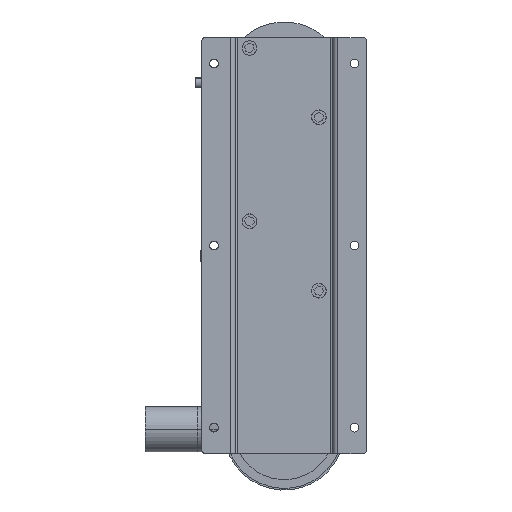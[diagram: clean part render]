
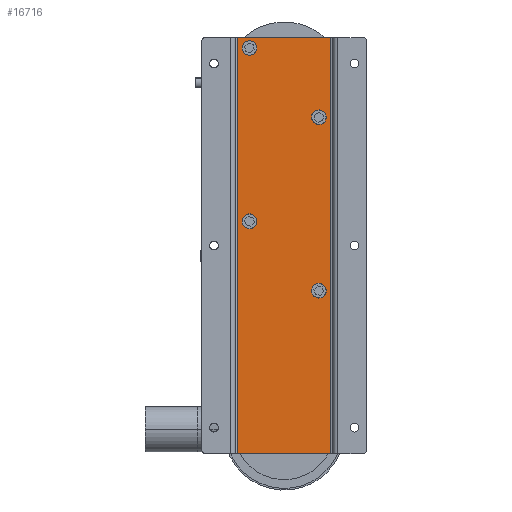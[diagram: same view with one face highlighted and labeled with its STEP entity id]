
A CAD part, left-side view. The second image highlights one B-rep face of the part: STEP entity #16716.
In plain terms, the highlighted planar face has unit normal (-1, 0, 0) as drawn and (0, 0, -1) by its records, which use the part's own axes.
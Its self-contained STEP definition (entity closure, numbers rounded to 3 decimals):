
#284 = DIRECTION ( 'NONE',  ( 0., 0., 1. ) ) ;
#1964 = DIRECTION ( 'NONE',  ( 1., 0., 0. ) ) ;
#3705 = CARTESIAN_POINT ( 'NONE',  ( -14., 20., -2. ) ) ;
#4168 = CARTESIAN_POINT ( 'NONE',  ( 29.25, -20., -2. ) ) ;
#4488 = ORIENTED_EDGE ( 'NONE', *, *, #53816, .T. ) ;
#5444 = ORIENTED_EDGE ( 'NONE', *, *, #41862, .F. ) ;
#5650 = DIRECTION ( 'NONE',  ( 1., 0., 0. ) ) ;
#6603 = CARTESIAN_POINT ( 'NONE',  ( 120., 27., -2. ) ) ;
#7766 = EDGE_CURVE ( 'NONE', #44637, #67734, #44096, .T. ) ;
#9466 = CARTESIAN_POINT ( 'NONE',  ( -77.25, -20., -2. ) ) ;
#9468 = DIRECTION ( 'NONE',  ( 0., 0., 1. ) ) ;
#9881 = ORIENTED_EDGE ( 'NONE', *, *, #7766, .T. ) ;
#10795 = EDGE_CURVE ( 'NONE', #48339, #83130, #59383, .T. ) ;
#11123 = CARTESIAN_POINT ( 'NONE',  ( 26., -20., -2. ) ) ;
#12160 = CARTESIAN_POINT ( 'NONE',  ( 26., -20., -2. ) ) ;
#12500 = LINE ( 'NONE', #18260, #30328 ) ;
#13712 = CARTESIAN_POINT ( 'NONE',  ( -17.25, 20., -2. ) ) ;
#14471 = DIRECTION ( 'NONE',  ( 1., 0., 0. ) ) ;
#16716 = ADVANCED_FACE ( 'NONE', ( #60404, #53781, #20168, #45826, #47564 ), #60847, .F. ) ;
#17041 = VERTEX_POINT ( 'NONE', #6603 ) ;
#17331 = CIRCLE ( 'NONE', #39944, 3.25 ) ;
#18260 = CARTESIAN_POINT ( 'NONE',  ( 120., 27., -2. ) ) ;
#19815 = VERTEX_POINT ( 'NONE', #42827 ) ;
#19989 = ORIENTED_EDGE ( 'NONE', *, *, #49729, .T. ) ;
#20168 = FACE_BOUND ( 'NONE', #81532, .T. ) ;
#20286 = AXIS2_PLACEMENT_3D ( 'NONE', #12160, #32480, #86437 ) ;
#20412 = VERTEX_POINT ( 'NONE', #25442 ) ;
#20504 = EDGE_CURVE ( 'NONE', #67734, #44637, #39809, .T. ) ;
#20604 = CARTESIAN_POINT ( 'NONE',  ( 120., -27., -2. ) ) ;
#23337 = CARTESIAN_POINT ( 'NONE',  ( -70.75, -20., -2. ) ) ;
#24513 = CIRCLE ( 'NONE', #20286, 3.25 ) ;
#25442 = CARTESIAN_POINT ( 'NONE',  ( 120., -27., -2. ) ) ;
#25821 = VERTEX_POINT ( 'NONE', #13712 ) ;
#27843 = CARTESIAN_POINT ( 'NONE',  ( -110.75, 20., -2. ) ) ;
#28300 = DIRECTION ( 'NONE',  ( 0., 0., 1. ) ) ;
#28723 = LINE ( 'NONE', #70731, #30884 ) ;
#30328 = VECTOR ( 'NONE', #46080, 1000. ) ;
#30884 = VECTOR ( 'NONE', #55691, 1000. ) ;
#31965 = CIRCLE ( 'NONE', #81379, 3.25 ) ;
#32480 = DIRECTION ( 'NONE',  ( 0., 0., 1. ) ) ;
#32683 = AXIS2_PLACEMENT_3D ( 'NONE', #11123, #72137, #71259 ) ;
#32736 = AXIS2_PLACEMENT_3D ( 'NONE', #47507, #47075, #48804 ) ;
#32995 = DIRECTION ( 'NONE',  ( 0., 0., 1. ) ) ;
#39725 = CARTESIAN_POINT ( 'NONE',  ( -14., 20., -2. ) ) ;
#39761 = CIRCLE ( 'NONE', #32683, 3.25 ) ;
#39809 = CIRCLE ( 'NONE', #32736, 3.25 ) ;
#39944 = AXIS2_PLACEMENT_3D ( 'NONE', #3705, #9468, #1964 ) ;
#41862 = EDGE_CURVE ( 'NONE', #20412, #17041, #81188, .T. ) ;
#42709 = AXIS2_PLACEMENT_3D ( 'NONE', #39725, #55147, #14471 ) ;
#42827 = CARTESIAN_POINT ( 'NONE',  ( -10.75, 20., -2. ) ) ;
#43431 = ORIENTED_EDGE ( 'NONE', *, *, #49235, .T. ) ;
#44096 = CIRCLE ( 'NONE', #48309, 3.25 ) ;
#44637 = VERTEX_POINT ( 'NONE', #23337 ) ;
#44811 = AXIS2_PLACEMENT_3D ( 'NONE', #68987, #28300, #54834 ) ;
#44830 = EDGE_LOOP ( 'NONE', ( #9881, #78584 ) ) ;
#45826 = FACE_BOUND ( 'NONE', #86244, .T. ) ;
#46080 = DIRECTION ( 'NONE',  ( -1., 0., 0. ) ) ;
#46962 = CARTESIAN_POINT ( 'NONE',  ( -120., -27., -2. ) ) ;
#47075 = DIRECTION ( 'NONE',  ( 0., 0., 1. ) ) ;
#47126 = CARTESIAN_POINT ( 'NONE',  ( 0., 0., -2. ) ) ;
#47507 = CARTESIAN_POINT ( 'NONE',  ( -74., -20., -2. ) ) ;
#47564 = FACE_OUTER_BOUND ( 'NONE', #69903, .T. ) ;
#48309 = AXIS2_PLACEMENT_3D ( 'NONE', #82815, #55839, #5650 ) ;
#48339 = VERTEX_POINT ( 'NONE', #53618 ) ;
#48581 = EDGE_LOOP ( 'NONE', ( #4488, #64448 ) ) ;
#48647 = EDGE_CURVE ( 'NONE', #63582, #60539, #39761, .T. ) ;
#48804 = DIRECTION ( 'NONE',  ( 1., 0., 0. ) ) ;
#49235 = EDGE_CURVE ( 'NONE', #19815, #25821, #76546, .T. ) ;
#49729 = EDGE_CURVE ( 'NONE', #25821, #19815, #17331, .T. ) ;
#51290 = CARTESIAN_POINT ( 'NONE',  ( -120., -27., -2. ) ) ;
#53338 = DIRECTION ( 'NONE',  ( 1., 0., 0. ) ) ;
#53448 = VECTOR ( 'NONE', #58356, 1000. ) ;
#53618 = CARTESIAN_POINT ( 'NONE',  ( -120., 27., -2. ) ) ;
#53781 = FACE_BOUND ( 'NONE', #44830, .T. ) ;
#53816 = EDGE_CURVE ( 'NONE', #70912, #78163, #31965, .T. ) ;
#54200 = DIRECTION ( 'NONE',  ( 1., 0., 0. ) ) ;
#54834 = DIRECTION ( 'NONE',  ( 1., 0., 0. ) ) ;
#55147 = DIRECTION ( 'NONE',  ( 0., 0., 1. ) ) ;
#55691 = DIRECTION ( 'NONE',  ( 1., 0., 0. ) ) ;
#55839 = DIRECTION ( 'NONE',  ( 0., 0., 1. ) ) ;
#58356 = DIRECTION ( 'NONE',  ( 0., 1., 0. ) ) ;
#58727 = CARTESIAN_POINT ( 'NONE',  ( 22.75, -20., -2. ) ) ;
#59383 = LINE ( 'NONE', #46962, #85414 ) ;
#60404 = FACE_BOUND ( 'NONE', #48581, .T. ) ;
#60539 = VERTEX_POINT ( 'NONE', #58727 ) ;
#60847 = PLANE ( 'NONE',  #70588 ) ;
#62785 = EDGE_CURVE ( 'NONE', #78163, #70912, #73031, .T. ) ;
#63582 = VERTEX_POINT ( 'NONE', #4168 ) ;
#64448 = ORIENTED_EDGE ( 'NONE', *, *, #62785, .T. ) ;
#66623 = CARTESIAN_POINT ( 'NONE',  ( -114., 20., -2. ) ) ;
#67734 = VERTEX_POINT ( 'NONE', #9466 ) ;
#67755 = ORIENTED_EDGE ( 'NONE', *, *, #10795, .F. ) ;
#68987 = CARTESIAN_POINT ( 'NONE',  ( -114., 20., -2. ) ) ;
#69903 = EDGE_LOOP ( 'NONE', ( #67755, #85961, #5444, #76106 ) ) ;
#70588 = AXIS2_PLACEMENT_3D ( 'NONE', #47126, #284, #54200 ) ;
#70731 = CARTESIAN_POINT ( 'NONE',  ( 120., -27., -2. ) ) ;
#70912 = VERTEX_POINT ( 'NONE', #27843 ) ;
#71259 = DIRECTION ( 'NONE',  ( 1., 0., 0. ) ) ;
#72137 = DIRECTION ( 'NONE',  ( 0., 0., 1. ) ) ;
#72251 = CARTESIAN_POINT ( 'NONE',  ( -117.25, 20., -2. ) ) ;
#73031 = CIRCLE ( 'NONE', #44811, 3.25 ) ;
#73049 = EDGE_CURVE ( 'NONE', #60539, #63582, #24513, .T. ) ;
#74641 = EDGE_CURVE ( 'NONE', #17041, #48339, #12500, .T. ) ;
#76106 = ORIENTED_EDGE ( 'NONE', *, *, #86104, .F. ) ;
#76546 = CIRCLE ( 'NONE', #42709, 3.25 ) ;
#78163 = VERTEX_POINT ( 'NONE', #72251 ) ;
#78584 = ORIENTED_EDGE ( 'NONE', *, *, #20504, .T. ) ;
#80145 = DIRECTION ( 'NONE',  ( 0., -1., 0. ) ) ;
#80764 = ORIENTED_EDGE ( 'NONE', *, *, #73049, .T. ) ;
#81188 = LINE ( 'NONE', #20604, #53448 ) ;
#81379 = AXIS2_PLACEMENT_3D ( 'NONE', #66623, #32995, #53338 ) ;
#81532 = EDGE_LOOP ( 'NONE', ( #43431, #19989 ) ) ;
#82815 = CARTESIAN_POINT ( 'NONE',  ( -74., -20., -2. ) ) ;
#83130 = VERTEX_POINT ( 'NONE', #51290 ) ;
#83980 = ORIENTED_EDGE ( 'NONE', *, *, #48647, .T. ) ;
#85414 = VECTOR ( 'NONE', #80145, 1000. ) ;
#85961 = ORIENTED_EDGE ( 'NONE', *, *, #74641, .F. ) ;
#86104 = EDGE_CURVE ( 'NONE', #83130, #20412, #28723, .T. ) ;
#86244 = EDGE_LOOP ( 'NONE', ( #83980, #80764 ) ) ;
#86437 = DIRECTION ( 'NONE',  ( 1., 0., 0. ) ) ;
